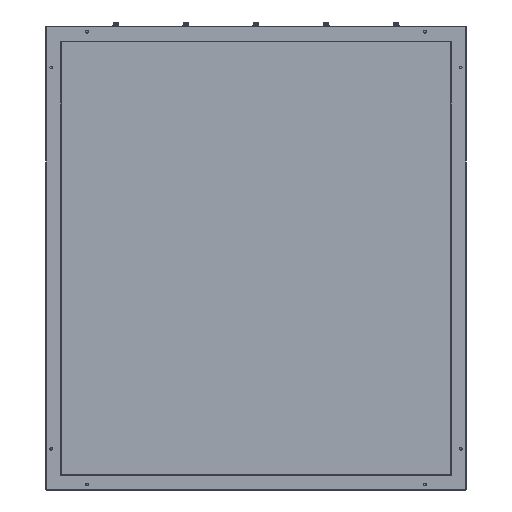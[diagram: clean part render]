
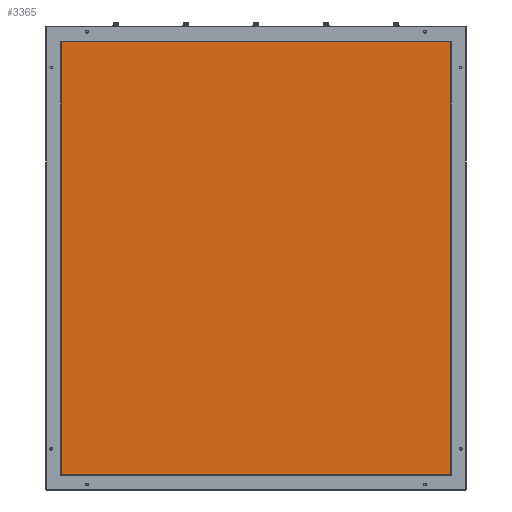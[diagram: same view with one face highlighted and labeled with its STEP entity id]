
A CAD part, front view. The second image highlights one B-rep face of the part: STEP entity #3365.
In plain terms, the highlighted planar face has unit normal (0, -1, 0).
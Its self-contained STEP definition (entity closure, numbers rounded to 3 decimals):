
#113 = EDGE_LOOP ( 'NONE', ( #2249, #2267, #2259, #2254 ) ) ;
#2249 = ORIENTED_EDGE ( 'NONE', *, *, #20101, .F. ) ;
#2254 = ORIENTED_EDGE ( 'NONE', *, *, #20151, .F. ) ;
#2259 = ORIENTED_EDGE ( 'NONE', *, *, #20102, .F. ) ;
#2267 = ORIENTED_EDGE ( 'NONE', *, *, #20149, .F. ) ;
#3365 = ADVANCED_FACE ( 'NONE', ( #10270 ), #12456, .T. ) ;
#10193 = AXIS2_PLACEMENT_3D ( 'NONE', #12458, #12469, #12433 ) ;
#10270 = FACE_OUTER_BOUND ( 'NONE', #113, .T. ) ;
#10864 = LINE ( 'NONE', #15440, #10901 ) ;
#10901 = VECTOR ( 'NONE', #15443, 1000. ) ;
#10926 = VECTOR ( 'NONE', #15477, 1000. ) ;
#10927 = LINE ( 'NONE', #15442, #10926 ) ;
#10944 = LINE ( 'NONE', #15615, #10947 ) ;
#10947 = VECTOR ( 'NONE', #15611, 1000. ) ;
#10955 = VECTOR ( 'NONE', #15622, 1000. ) ;
#10979 = LINE ( 'NONE', #15593, #10955 ) ;
#12433 = DIRECTION ( 'NONE',  ( 0., 0., -1. ) ) ;
#12456 = PLANE ( 'NONE',  #10193 ) ;
#12458 = CARTESIAN_POINT ( 'NONE',  ( 450., 0., -500. ) ) ;
#12469 = DIRECTION ( 'NONE',  ( 0., -1., 0. ) ) ;
#15440 = CARTESIAN_POINT ( 'NONE',  ( -450., 0., 500. ) ) ;
#15442 = CARTESIAN_POINT ( 'NONE',  ( 450., 0., 500. ) ) ;
#15443 = DIRECTION ( 'NONE',  ( 0., 0., 1. ) ) ;
#15477 = DIRECTION ( 'NONE',  ( 0., 0., -1. ) ) ;
#15593 = CARTESIAN_POINT ( 'NONE',  ( -450., 0., -500. ) ) ;
#15611 = DIRECTION ( 'NONE',  ( 1., 0., 0. ) ) ;
#15615 = CARTESIAN_POINT ( 'NONE',  ( -450., 0., 500. ) ) ;
#15622 = DIRECTION ( 'NONE',  ( -1., 0., 0. ) ) ;
#18679 = CARTESIAN_POINT ( 'NONE',  ( -450., 0., 500. ) ) ;
#18706 = CARTESIAN_POINT ( 'NONE',  ( 450., 0., -500. ) ) ;
#18720 = CARTESIAN_POINT ( 'NONE',  ( -450., 0., -500. ) ) ;
#18727 = CARTESIAN_POINT ( 'NONE',  ( 450., 0., 500. ) ) ;
#20101 = EDGE_CURVE ( 'NONE', #21210, #21211, #10927, .T. ) ;
#20102 = EDGE_CURVE ( 'NONE', #21225, #21230, #10864, .T. ) ;
#20149 = EDGE_CURVE ( 'NONE', #21230, #21210, #10944, .T. ) ;
#20151 = EDGE_CURVE ( 'NONE', #21211, #21225, #10979, .T. ) ;
#21210 = VERTEX_POINT ( 'NONE', #18727 ) ;
#21211 = VERTEX_POINT ( 'NONE', #18706 ) ;
#21225 = VERTEX_POINT ( 'NONE', #18720 ) ;
#21230 = VERTEX_POINT ( 'NONE', #18679 ) ;
